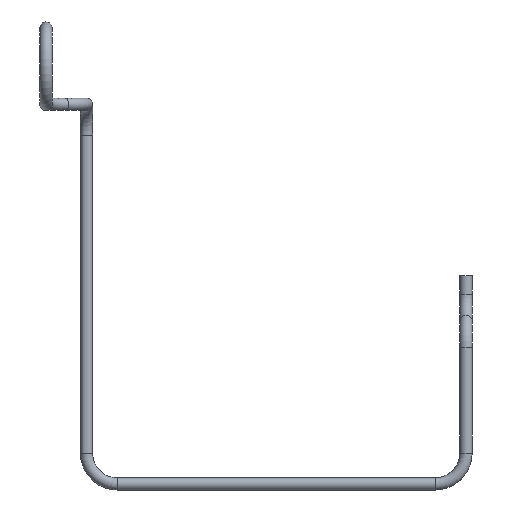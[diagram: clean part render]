
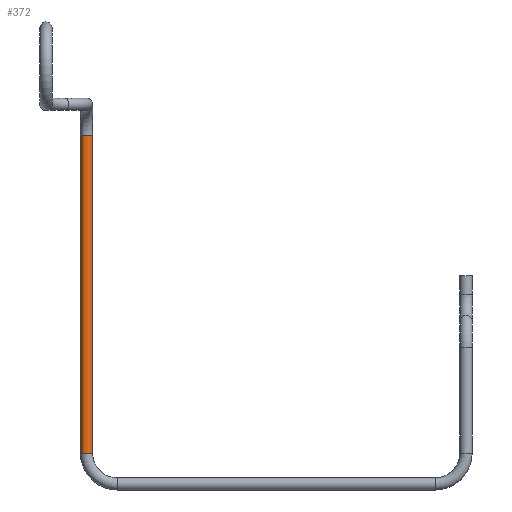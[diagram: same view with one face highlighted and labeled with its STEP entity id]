
A CAD part, left-side view. The second image highlights one B-rep face of the part: STEP entity #372.
In plain terms, the highlighted cylindrical face has radius 1 mm (diameter 2 mm), a full revolution.
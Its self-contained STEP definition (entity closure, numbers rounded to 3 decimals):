
#306 = TOROIDAL_SURFACE('',#307,5.,1.);
#307 = AXIS2_PLACEMENT_3D('',#308,#309,#310);
#308 = CARTESIAN_POINT('',(-245.,502.,201.8));
#309 = DIRECTION('',(-0.,1.,0.));
#310 = DIRECTION('',(0.,0.,1.));
#323 = VERTEX_POINT('',#324);
#324 = CARTESIAN_POINT('',(-239.,502.,201.8));
#345 = EDGE_CURVE('',#323,#323,#346,.T.);
#346 = SURFACE_CURVE('',#347,(#352,#359),.PCURVE_S1.);
#347 = CIRCLE('',#348,1.);
#348 = AXIS2_PLACEMENT_3D('',#349,#350,#351);
#349 = CARTESIAN_POINT('',(-240.,502.,201.8));
#350 = DIRECTION('',(0.,-0.,1.));
#351 = DIRECTION('',(1.,0.,0.));
#352 = PCURVE('',#306,#353);
#353 = DEFINITIONAL_REPRESENTATION('',(#354),#358);
#354 = LINE('',#355,#356);
#355 = CARTESIAN_POINT('',(1.571,0.));
#356 = VECTOR('',#357,1.);
#357 = DIRECTION('',(0.,1.));
#358 = ( GEOMETRIC_REPRESENTATION_CONTEXT(2) 
PARAMETRIC_REPRESENTATION_CONTEXT() REPRESENTATION_CONTEXT('2D SPACE',''
  ) );
#359 = PCURVE('',#360,#365);
#360 = CYLINDRICAL_SURFACE('',#361,1.);
#361 = AXIS2_PLACEMENT_3D('',#362,#363,#364);
#362 = CARTESIAN_POINT('',(-240.,502.,201.8));
#363 = DIRECTION('',(0.,0.,-1.));
#364 = DIRECTION('',(1.,0.,0.));
#365 = DEFINITIONAL_REPRESENTATION('',(#366),#369);
#366 = B_SPLINE_CURVE_WITH_KNOTS('',1,(#367,#368),.UNSPECIFIED.,.F.,.F.,
  (2,2),(0.,6.283),.PIECEWISE_BEZIER_KNOTS.);
#367 = CARTESIAN_POINT('',(6.283,0.));
#368 = CARTESIAN_POINT('',(0.,0.));
#369 = ( GEOMETRIC_REPRESENTATION_CONTEXT(2) 
PARAMETRIC_REPRESENTATION_CONTEXT() REPRESENTATION_CONTEXT('2D SPACE',''
  ) );
#372 = ADVANCED_FACE('',(#373),#360,.T.);
#373 = FACE_BOUND('',#374,.T.);
#374 = EDGE_LOOP('',(#375,#397,#423,#424));
#375 = ORIENTED_EDGE('',*,*,#376,.T.);
#376 = EDGE_CURVE('',#323,#377,#379,.T.);
#377 = VERTEX_POINT('',#378);
#378 = CARTESIAN_POINT('',(-239.,502.,150.));
#379 = SEAM_CURVE('',#380,(#384,#390),.PCURVE_S1.);
#380 = LINE('',#381,#382);
#381 = CARTESIAN_POINT('',(-239.,502.,201.8));
#382 = VECTOR('',#383,1.);
#383 = DIRECTION('',(0.,0.,-1.));
#384 = PCURVE('',#360,#385);
#385 = DEFINITIONAL_REPRESENTATION('',(#386),#389);
#386 = B_SPLINE_CURVE_WITH_KNOTS('',1,(#387,#388),.UNSPECIFIED.,.F.,.F.,
  (2,2),(0.,51.8),.PIECEWISE_BEZIER_KNOTS.);
#387 = CARTESIAN_POINT('',(6.283,0.));
#388 = CARTESIAN_POINT('',(6.283,51.8));
#389 = ( GEOMETRIC_REPRESENTATION_CONTEXT(2) 
PARAMETRIC_REPRESENTATION_CONTEXT() REPRESENTATION_CONTEXT('2D SPACE',''
  ) );
#390 = PCURVE('',#360,#391);
#391 = DEFINITIONAL_REPRESENTATION('',(#392),#396);
#392 = LINE('',#393,#394);
#393 = CARTESIAN_POINT('',(0.,0.));
#394 = VECTOR('',#395,1.);
#395 = DIRECTION('',(0.,1.));
#396 = ( GEOMETRIC_REPRESENTATION_CONTEXT(2) 
PARAMETRIC_REPRESENTATION_CONTEXT() REPRESENTATION_CONTEXT('2D SPACE',''
  ) );
#397 = ORIENTED_EDGE('',*,*,#398,.F.);
#398 = EDGE_CURVE('',#377,#377,#399,.T.);
#399 = SURFACE_CURVE('',#400,(#405,#412),.PCURVE_S1.);
#400 = CIRCLE('',#401,1.);
#401 = AXIS2_PLACEMENT_3D('',#402,#403,#404);
#402 = CARTESIAN_POINT('',(-240.,502.,150.));
#403 = DIRECTION('',(0.,0.,-1.));
#404 = DIRECTION('',(1.,0.,0.));
#405 = PCURVE('',#360,#406);
#406 = DEFINITIONAL_REPRESENTATION('',(#407),#411);
#407 = LINE('',#408,#409);
#408 = CARTESIAN_POINT('',(0.,51.8));
#409 = VECTOR('',#410,1.);
#410 = DIRECTION('',(1.,0.));
#411 = ( GEOMETRIC_REPRESENTATION_CONTEXT(2) 
PARAMETRIC_REPRESENTATION_CONTEXT() REPRESENTATION_CONTEXT('2D SPACE',''
  ) );
#412 = PCURVE('',#413,#418);
#413 = TOROIDAL_SURFACE('',#414,5.,1.);
#414 = AXIS2_PLACEMENT_3D('',#415,#416,#417);
#415 = CARTESIAN_POINT('',(-240.,497.,150.));
#416 = DIRECTION('',(-1.,0.,-0.));
#417 = DIRECTION('',(0.,1.,0.));
#418 = DEFINITIONAL_REPRESENTATION('',(#419),#422);
#419 = B_SPLINE_CURVE_WITH_KNOTS('',1,(#420,#421),.UNSPECIFIED.,.F.,.F.,
  (2,2),(0.,6.283),.PIECEWISE_BEZIER_KNOTS.);
#420 = CARTESIAN_POINT('',(0.,10.996));
#421 = CARTESIAN_POINT('',(0.,4.712));
#422 = ( GEOMETRIC_REPRESENTATION_CONTEXT(2) 
PARAMETRIC_REPRESENTATION_CONTEXT() REPRESENTATION_CONTEXT('2D SPACE',''
  ) );
#423 = ORIENTED_EDGE('',*,*,#376,.F.);
#424 = ORIENTED_EDGE('',*,*,#345,.F.);
